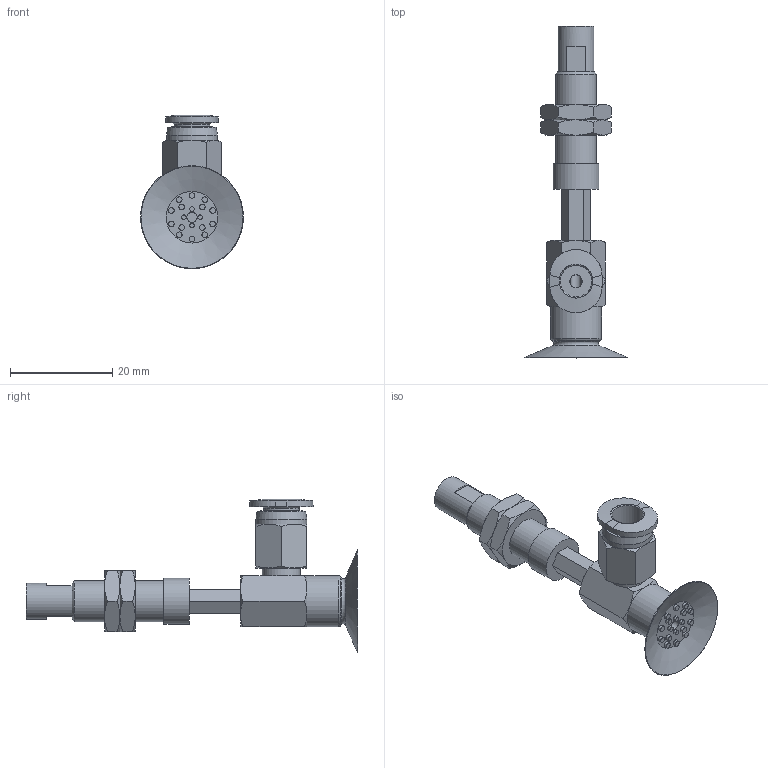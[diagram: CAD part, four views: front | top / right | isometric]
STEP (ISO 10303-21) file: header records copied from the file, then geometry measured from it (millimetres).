
FILE_DESCRIPTION(('STEP AP203'),'1');
FILE_NAME('-O.stp','2025-03-13T03:23:34',(' '),(' '),'Spatial InterOp 3D',' ',' ');
FILE_SCHEMA(('CONFIG_CONTROL_DESIGN'));
Length unit declared in the file: millimetre
Products named in the file (7): BNABPAYH-20A-10-※-O; NAPATH-20A-10--M; NAPATH-20A-10--F; Nut-10A-S; CONNECTOR-20A-10-PA; PC-C_06-M5; BPAG-20A-※
Assembly tree (7 placements, depth 2):
  BNABPAYH-20A-10-※-O
    NAPATH-20A-10--M
    NAPATH-20A-10--F
    Nut-10A-S  x2
    CONNECTOR-20A-10-PA
    PC-C_06-M5
    BPAG-20A-※
Bounding box: 20.19 x 65 x 30.07 mm (x, y, z)
Volume: 4631.6 mm3; surface area: 5934.3 mm2
Topology: 7 solids, 7 shells, 226 faces, 455 edges, 279 vertices
Faces by surface type: plane 98, cone 67, cylinder 42, torus 12, bspline 4, revolution 3
Full cylindrical faces by diameter (mm): 0.9 x4, 1.1 x14, 2 x2, 4 x4, 4.134 x2, 5 x2, 6 x2, 7 x2, 7.188 x2, 7.4 x1, 8 x1, 8.2 x1, 9 x1, 10 x2
Entity records: 5664 total; most frequent: CARTESIAN_POINT 1490, DIRECTION 801, ORIENTED_EDGE 658, AXIS2_PLACEMENT_3D 354, EDGE_CURVE 329, EDGE_LOOP 316, FACE_OUTER_BOUND 254, VERTEX_POINT 241
